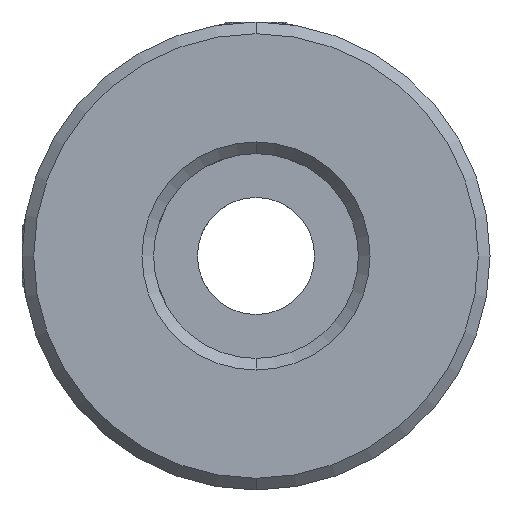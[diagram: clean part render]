
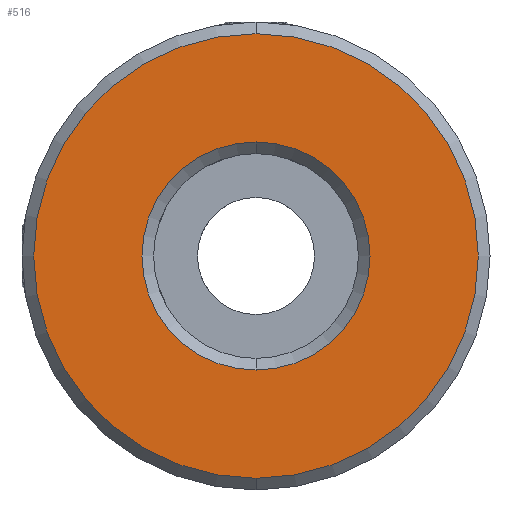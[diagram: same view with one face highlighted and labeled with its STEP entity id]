
A CAD part, front view. The second image highlights one B-rep face of the part: STEP entity #516.
In plain terms, the highlighted planar face has unit normal (0, -1, 0).
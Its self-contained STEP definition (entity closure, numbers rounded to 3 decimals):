
#53 = VERTEX_POINT ( 'NONE', #1990 ) ;
#125 = FACE_OUTER_BOUND ( 'NONE', #2410, .T. ) ;
#214 = AXIS2_PLACEMENT_3D ( 'NONE', #3682, #845, #2883 ) ;
#267 = EDGE_CURVE ( 'NONE', #1307, #3391, #2594, .T. ) ;
#269 = AXIS2_PLACEMENT_3D ( 'NONE', #670, #2150, #3278 ) ;
#412 = FACE_BOUND ( 'NONE', #3247, .T. ) ;
#481 = CIRCLE ( 'NONE', #3159, 15.2 ) ;
#504 = ORIENTED_EDGE ( 'NONE', *, *, #267, .T. ) ;
#516 = ADVANCED_FACE ( 'NONE', ( #125, #412 ), #1341, .F. ) ;
#541 = CARTESIAN_POINT ( 'NONE',  ( -10.188, -0.277, -15.154 ) ) ;
#670 = CARTESIAN_POINT ( 'NONE',  ( -10.188, -0.277, 0.046 ) ) ;
#674 = CARTESIAN_POINT ( 'NONE',  ( -10.188, -0.277, -7.754 ) ) ;
#734 = EDGE_CURVE ( 'NONE', #3391, #1307, #896, .T. ) ;
#784 = DIRECTION ( 'NONE',  ( 0., 1., 0. ) ) ;
#816 = DIRECTION ( 'NONE',  ( 0., 0., 1. ) ) ;
#845 = DIRECTION ( 'NONE',  ( 0., 1., 0. ) ) ;
#896 = CIRCLE ( 'NONE', #214, 7.8 ) ;
#951 = CARTESIAN_POINT ( 'NONE',  ( -10.188, -0.277, 0.046 ) ) ;
#1034 = VERTEX_POINT ( 'NONE', #541 ) ;
#1041 = DIRECTION ( 'NONE',  ( 0., 0., 1. ) ) ;
#1082 = CARTESIAN_POINT ( 'NONE',  ( -10.188, -0.277, 0.046 ) ) ;
#1183 = AXIS2_PLACEMENT_3D ( 'NONE', #2460, #784, #1323 ) ;
#1229 = EDGE_CURVE ( 'NONE', #53, #1034, #481, .T. ) ;
#1237 = DIRECTION ( 'NONE',  ( 0., -1., 0. ) ) ;
#1307 = VERTEX_POINT ( 'NONE', #2502 ) ;
#1323 = DIRECTION ( 'NONE',  ( 0., 0., 1. ) ) ;
#1341 = PLANE ( 'NONE',  #1183 ) ;
#1648 = EDGE_CURVE ( 'NONE', #1034, #53, #3163, .T. ) ;
#1748 = DIRECTION ( 'NONE',  ( 0., -1., 0. ) ) ;
#1990 = CARTESIAN_POINT ( 'NONE',  ( -10.188, -0.277, 15.246 ) ) ;
#2150 = DIRECTION ( 'NONE',  ( 0., 1., 0. ) ) ;
#2312 = ORIENTED_EDGE ( 'NONE', *, *, #1229, .T. ) ;
#2410 = EDGE_LOOP ( 'NONE', ( #2312, #2843 ) ) ;
#2460 = CARTESIAN_POINT ( 'NONE',  ( -10.188, -0.277, 0.046 ) ) ;
#2502 = CARTESIAN_POINT ( 'NONE',  ( -10.188, -0.277, 7.846 ) ) ;
#2594 = CIRCLE ( 'NONE', #269, 7.8 ) ;
#2746 = AXIS2_PLACEMENT_3D ( 'NONE', #1082, #1748, #816 ) ;
#2843 = ORIENTED_EDGE ( 'NONE', *, *, #1648, .T. ) ;
#2883 = DIRECTION ( 'NONE',  ( 0., 0., 1. ) ) ;
#3159 = AXIS2_PLACEMENT_3D ( 'NONE', #951, #1237, #1041 ) ;
#3163 = CIRCLE ( 'NONE', #2746, 15.2 ) ;
#3247 = EDGE_LOOP ( 'NONE', ( #3453, #504 ) ) ;
#3278 = DIRECTION ( 'NONE',  ( 0., 0., 1. ) ) ;
#3391 = VERTEX_POINT ( 'NONE', #674 ) ;
#3453 = ORIENTED_EDGE ( 'NONE', *, *, #734, .T. ) ;
#3682 = CARTESIAN_POINT ( 'NONE',  ( -10.188, -0.277, 0.046 ) ) ;
